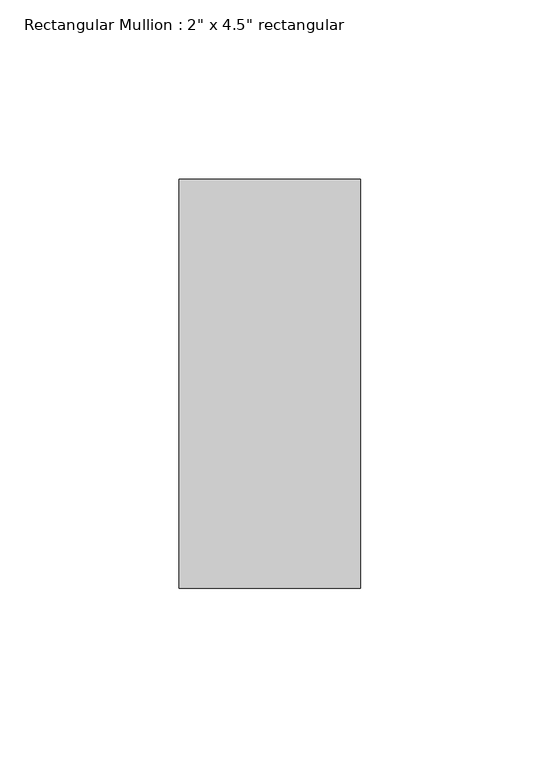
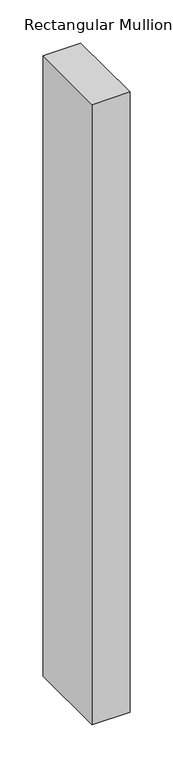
"""IFC4 building model written with IfcOpenShell, lengths in millimetres: member geometry."""

from ifc_helpers import new_model, si_unit, frame, origin, place, context, project, spatial, polyline, outline, extrude, source, transform, mapped, element, save


def member_67d17f7f(model_context):
    return source(origin(), model_context, "Body", "SweptSolid", [
        extrude(outline(polyline([(0.0, 57.15), (0.0, -57.15), (-50.8, -57.15), (-50.8, 57.15), (0.0, 57.15)])), frame((0.0, 0.0, -879.475), z_axis=(0.0, 0.0, 1.0), x_axis=(1.0, 0.0, 0.0)), (0.0, 0.0, 1.0), 879.475),
    ])


if __name__ == "__main__":
    model = new_model("IFC4")
    model_context = context("Model", 3, world=origin())
    ifc_project = project(units=[si_unit("LENGTHUNIT", "METRE", prefix="MILLI")], contexts=[model_context])
    site = spatial("IfcSite", under=ifc_project)
    building = spatial("IfcBuilding", under=site)
    placement = place(None, origin())
    member_shape = member_67d17f7f(model_context)
    element("IfcMember", 1, ObjectType="Rectangular Mullion : 2\" x 4.5\" rectangular", at=placement, inside=building, context=model_context, shape_type="MappedRepresentation", body=[
        mapped(member_shape, transform((0.0, 0.0, 0.0), x_axis=(1.0, 0.0, 0.0), y_axis=(0.0, 1.0, 0.0), z_axis=(0.0, 0.0, 1.0))),
    ])
    save(model, "model.ifc")
